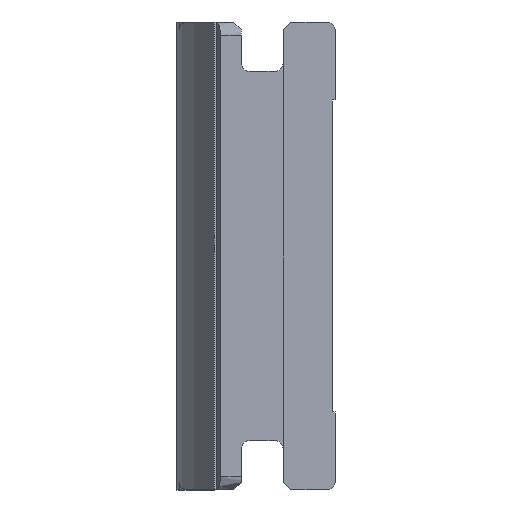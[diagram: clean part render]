
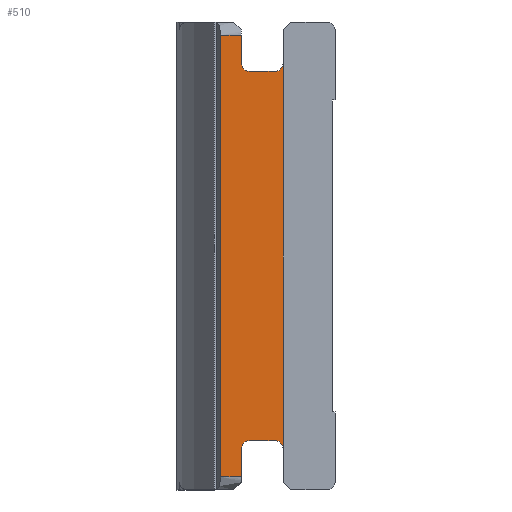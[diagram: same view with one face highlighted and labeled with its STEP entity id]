
A CAD part, left-side view. The second image highlights one B-rep face of the part: STEP entity #510.
In plain terms, the highlighted planar face has unit normal (-1, 0, 0).
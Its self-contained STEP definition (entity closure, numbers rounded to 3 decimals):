
#2 = VECTOR ( 'NONE', #1793, 1000. ) ;
#23 = DIRECTION ( 'NONE',  ( 0., -1., 0. ) ) ;
#38 = ORIENTED_EDGE ( 'NONE', *, *, #367, .F. ) ;
#40 = CARTESIAN_POINT ( 'NONE',  ( 10., 3.2, 7.1 ) ) ;
#45 = VERTEX_POINT ( 'NONE', #1437 ) ;
#49 = LINE ( 'NONE', #1488, #432 ) ;
#71 = DIRECTION ( 'NONE',  ( 0., 0., -1. ) ) ;
#73 = EDGE_LOOP ( 'NONE', ( #1124, #1199, #788, #105, #507, #1414, #305, #553, #362, #38, #1050, #539 ) ) ;
#99 = EDGE_CURVE ( 'NONE', #258, #207, #1154, .T. ) ;
#105 = ORIENTED_EDGE ( 'NONE', *, *, #1520, .T. ) ;
#110 = DIRECTION ( 'NONE',  ( 0., 0., -1. ) ) ;
#158 = DIRECTION ( 'NONE',  ( 0., 0., -1. ) ) ;
#165 = CARTESIAN_POINT ( 'NONE',  ( 10., 1.9, 7.4 ) ) ;
#174 = CARTESIAN_POINT ( 'NONE',  ( 10., 2.2, 7.1 ) ) ;
#175 = DIRECTION ( 'NONE',  ( 0., 0., -1. ) ) ;
#207 = VERTEX_POINT ( 'NONE', #1720 ) ;
#210 = CARTESIAN_POINT ( 'NONE',  ( 10., 1.9, -29.536 ) ) ;
#217 = EDGE_CURVE ( 'NONE', #229, #1453, #699, .T. ) ;
#222 = CIRCLE ( 'NONE', #737, 0.3 ) ;
#225 = CARTESIAN_POINT ( 'NONE',  ( 10., 4.3, -29.536 ) ) ;
#229 = VERTEX_POINT ( 'NONE', #430 ) ;
#244 = CARTESIAN_POINT ( 'NONE',  ( 10., 3.5, 8.7 ) ) ;
#258 = VERTEX_POINT ( 'NONE', #1704 ) ;
#267 = VECTOR ( 'NONE', #175, 1000. ) ;
#305 = ORIENTED_EDGE ( 'NONE', *, *, #99, .F. ) ;
#341 = CARTESIAN_POINT ( 'NONE',  ( 10., 3.2, 7.4 ) ) ;
#362 = ORIENTED_EDGE ( 'NONE', *, *, #1833, .F. ) ;
#367 = EDGE_CURVE ( 'NONE', #940, #1814, #1360, .T. ) ;
#427 = AXIS2_PLACEMENT_3D ( 'NONE', #1447, #1613, #158 ) ;
#430 = CARTESIAN_POINT ( 'NONE',  ( 10., 4.3, -8.5 ) ) ;
#432 = VECTOR ( 'NONE', #756, 1000. ) ;
#441 = CARTESIAN_POINT ( 'NONE',  ( 10., 2.2, 7.4 ) ) ;
#450 = VECTOR ( 'NONE', #110, 1000. ) ;
#467 = CARTESIAN_POINT ( 'NONE',  ( 10., 4.3, 8.5 ) ) ;
#496 = LINE ( 'NONE', #1674, #2 ) ;
#507 = ORIENTED_EDGE ( 'NONE', *, *, #826, .F. ) ;
#510 = ADVANCED_FACE ( 'NONE', ( #517 ), #1499, .F. ) ;
#517 = FACE_OUTER_BOUND ( 'NONE', #73, .T. ) ;
#539 = ORIENTED_EDGE ( 'NONE', *, *, #1578, .F. ) ;
#540 = CARTESIAN_POINT ( 'NONE',  ( 10., 3.5, 7.4 ) ) ;
#549 = CARTESIAN_POINT ( 'NONE',  ( 10., 3.2, 7.1 ) ) ;
#553 = ORIENTED_EDGE ( 'NONE', *, *, #1506, .F. ) ;
#582 = VECTOR ( 'NONE', #23, 1000. ) ;
#684 = LINE ( 'NONE', #244, #450 ) ;
#699 = LINE ( 'NONE', #225, #1663 ) ;
#727 = LINE ( 'NONE', #1463, #267 ) ;
#737 = AXIS2_PLACEMENT_3D ( 'NONE', #1194, #1044, #1610 ) ;
#740 = LINE ( 'NONE', #1038, #582 ) ;
#756 = DIRECTION ( 'NONE',  ( 0., 0., -1. ) ) ;
#784 = DIRECTION ( 'NONE',  ( 1., 0., 0. ) ) ;
#788 = ORIENTED_EDGE ( 'NONE', *, *, #217, .F. ) ;
#820 = VERTEX_POINT ( 'NONE', #40 ) ;
#826 = EDGE_CURVE ( 'NONE', #45, #1496, #49, .T. ) ;
#887 = VECTOR ( 'NONE', #1559, 1000. ) ;
#911 = CARTESIAN_POINT ( 'NONE',  ( 10., 3.5, -8.5 ) ) ;
#917 = CIRCLE ( 'NONE', #427, 0.3 ) ;
#929 = EDGE_CURVE ( 'NONE', #207, #45, #222, .T. ) ;
#940 = VERTEX_POINT ( 'NONE', #174 ) ;
#1023 = DIRECTION ( 'NONE',  ( 0., 0., -1. ) ) ;
#1038 = CARTESIAN_POINT ( 'NONE',  ( 10., 1.9, -8.5 ) ) ;
#1040 = DIRECTION ( 'NONE',  ( 0., 1., 0. ) ) ;
#1044 = DIRECTION ( 'NONE',  ( -1., 0., 0. ) ) ;
#1050 = ORIENTED_EDGE ( 'NONE', *, *, #1257, .F. ) ;
#1124 = ORIENTED_EDGE ( 'NONE', *, *, #1626, .F. ) ;
#1153 = AXIS2_PLACEMENT_3D ( 'NONE', #210, #784, #1637 ) ;
#1154 = LINE ( 'NONE', #1606, #1366 ) ;
#1194 = CARTESIAN_POINT ( 'NONE',  ( 10., 3.2, -7.4 ) ) ;
#1197 = EDGE_CURVE ( 'NONE', #1256, #1453, #496, .T. ) ;
#1199 = ORIENTED_EDGE ( 'NONE', *, *, #1197, .T. ) ;
#1256 = VERTEX_POINT ( 'NONE', #1412 ) ;
#1257 = EDGE_CURVE ( 'NONE', #820, #940, #1701, .T. ) ;
#1270 = AXIS2_PLACEMENT_3D ( 'NONE', #341, #1669, #71 ) ;
#1337 = VERTEX_POINT ( 'NONE', #1718 ) ;
#1338 = VERTEX_POINT ( 'NONE', #540 ) ;
#1360 = CIRCLE ( 'NONE', #1513, 0.3 ) ;
#1366 = VECTOR ( 'NONE', #1040, 1000. ) ;
#1412 = CARTESIAN_POINT ( 'NONE',  ( 10., 3.5, 8.5 ) ) ;
#1414 = ORIENTED_EDGE ( 'NONE', *, *, #929, .F. ) ;
#1437 = CARTESIAN_POINT ( 'NONE',  ( 10., 3.5, -7.4 ) ) ;
#1447 = CARTESIAN_POINT ( 'NONE',  ( 10., 2.2, -7.4 ) ) ;
#1453 = VERTEX_POINT ( 'NONE', #467 ) ;
#1463 = CARTESIAN_POINT ( 'NONE',  ( 10., 1.9, -29.536 ) ) ;
#1488 = CARTESIAN_POINT ( 'NONE',  ( 10., 3.5, -8.7 ) ) ;
#1496 = VERTEX_POINT ( 'NONE', #911 ) ;
#1499 = PLANE ( 'NONE',  #1153 ) ;
#1506 = EDGE_CURVE ( 'NONE', #1337, #258, #917, .T. ) ;
#1513 = AXIS2_PLACEMENT_3D ( 'NONE', #441, #1873, #1023 ) ;
#1520 = EDGE_CURVE ( 'NONE', #229, #1496, #740, .T. ) ;
#1559 = DIRECTION ( 'NONE',  ( 0., -1., 0. ) ) ;
#1578 = EDGE_CURVE ( 'NONE', #1338, #820, #1602, .T. ) ;
#1602 = CIRCLE ( 'NONE', #1270, 0.3 ) ;
#1606 = CARTESIAN_POINT ( 'NONE',  ( 10., 3.2, -7.1 ) ) ;
#1610 = DIRECTION ( 'NONE',  ( 0., 0., -1. ) ) ;
#1613 = DIRECTION ( 'NONE',  ( -1., 0., 0. ) ) ;
#1626 = EDGE_CURVE ( 'NONE', #1256, #1338, #684, .T. ) ;
#1637 = DIRECTION ( 'NONE',  ( 0., 0., -1. ) ) ;
#1663 = VECTOR ( 'NONE', #1713, 1000. ) ;
#1669 = DIRECTION ( 'NONE',  ( -1., 0., 0. ) ) ;
#1674 = CARTESIAN_POINT ( 'NONE',  ( 10., 1.9, 8.5 ) ) ;
#1701 = LINE ( 'NONE', #549, #887 ) ;
#1704 = CARTESIAN_POINT ( 'NONE',  ( 10., 2.2, -7.1 ) ) ;
#1713 = DIRECTION ( 'NONE',  ( 0., 0., 1. ) ) ;
#1718 = CARTESIAN_POINT ( 'NONE',  ( 10., 1.9, -7.4 ) ) ;
#1720 = CARTESIAN_POINT ( 'NONE',  ( 10., 3.2, -7.1 ) ) ;
#1793 = DIRECTION ( 'NONE',  ( 0., 1., 0. ) ) ;
#1814 = VERTEX_POINT ( 'NONE', #165 ) ;
#1833 = EDGE_CURVE ( 'NONE', #1814, #1337, #727, .T. ) ;
#1873 = DIRECTION ( 'NONE',  ( -1., 0., 0. ) ) ;
